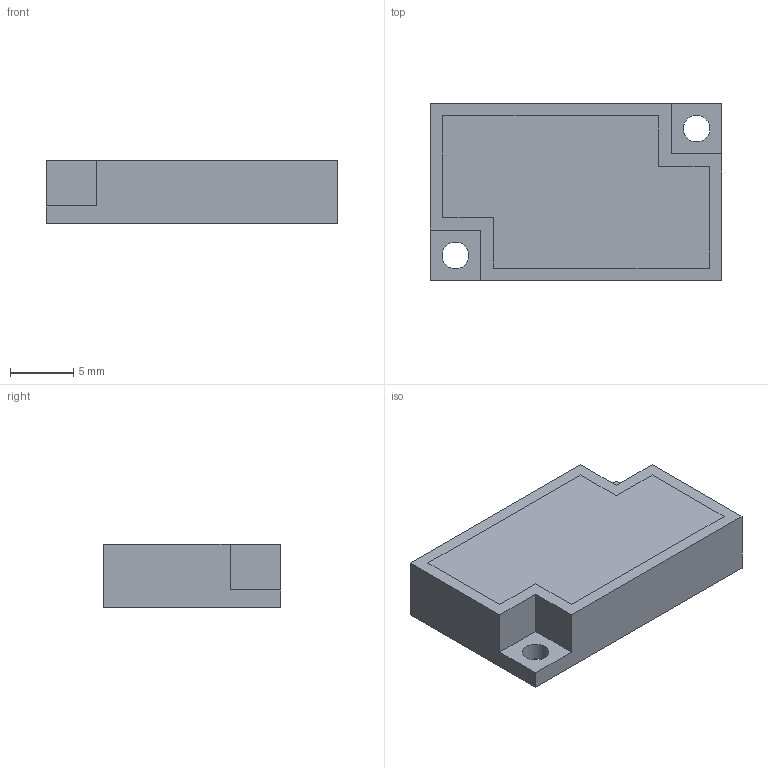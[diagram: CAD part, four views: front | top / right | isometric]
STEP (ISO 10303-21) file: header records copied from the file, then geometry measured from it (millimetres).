
FILE_DESCRIPTION(/* description */ (''),/* implementation_level */ '2;1');
FILE_NAME(/* name */ 'DSD-546 R16.stp',/* time_stamp */ '2014-08-26T08:13:40+02:00',/* author */ (''),/* organization */ (''),/* preprocessor_version */ 'ST-DEVELOPER v11',/* originating_system */ 'SIEMENS PLM Software NX 7.5',/* authorisation */ '');
FILE_SCHEMA (('AP203_CONFIGURATION_CONTROLLED_3D_DESIGN_OF_MECHANICAL_PARTS_AND_ASSEMBLIES_MIM_LF'));
Length unit declared in the file: millimetre
Products named in the file (1): MP004177_02
Bounding box: 23 x 14 x 5 mm (x, y, z)
Volume: 1485.1 mm3; surface area: 1986.6 mm2
Topology: 2 solids, 2 shells, 33 faces, 84 edges, 56 vertices
Faces by surface type: plane 31, cylinder 2
Full cylindrical faces by diameter (mm): 2.1 x2
Entity records: 1082 total; most frequent: CARTESIAN_POINT 172, ORIENTED_EDGE 164, DIRECTION 154, EDGE_CURVE 82, LINE 78, VECTOR 78, VERTEX_POINT 56, EDGE_LOOP 40
